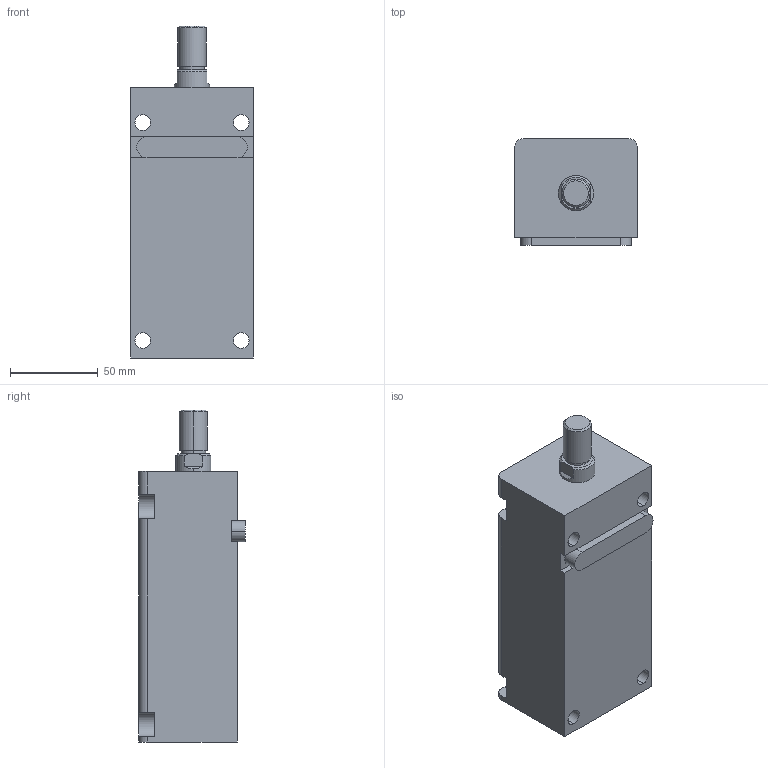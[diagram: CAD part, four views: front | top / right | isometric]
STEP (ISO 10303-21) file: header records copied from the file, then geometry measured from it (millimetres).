
FILE_DESCRIPTION (( 'STEP AP203' ), '1' );
FILE_NAME ('HTB-LA32-100W.STEP', '2019-10-09T06:33:27', ( '微软用户' ), ( '微软中国' ), 'SwSTEP 2.0', 'SolidWorks 2012', '' );
FILE_SCHEMA (( 'CONFIG_CONTROL_DESIGN' ));
Length unit declared in the file: millimetre
Products named in the file (4): HTB-LA32-100W; HTB-LA32-100掛极; HTB-LA32-100W活塞杆; HTB-LA32-瑩
Assembly tree (3 placements, depth 2):
  HTB-LA32-100W
    HTB-LA32-100掛极
    HTB-LA32-100W活塞杆
    HTB-LA32-瑩
Bounding box: 70 x 60.5 x 189 mm (x, y, z)
Volume: 543779.9 mm3; surface area: 82921 mm2
Topology: 3 solids, 3 shells, 92 faces, 223 edges, 146 vertices
Faces by surface type: plane 41, cylinder 37, cone 8, torus 6
Entity records: 3159 total; most frequent: DIRECTION 509, CARTESIAN_POINT 495, ORIENTED_EDGE 446, EDGE_CURVE 223, AXIS2_PLACEMENT_3D 196, VERTEX_POINT 146, VECTOR 117, LINE 117
